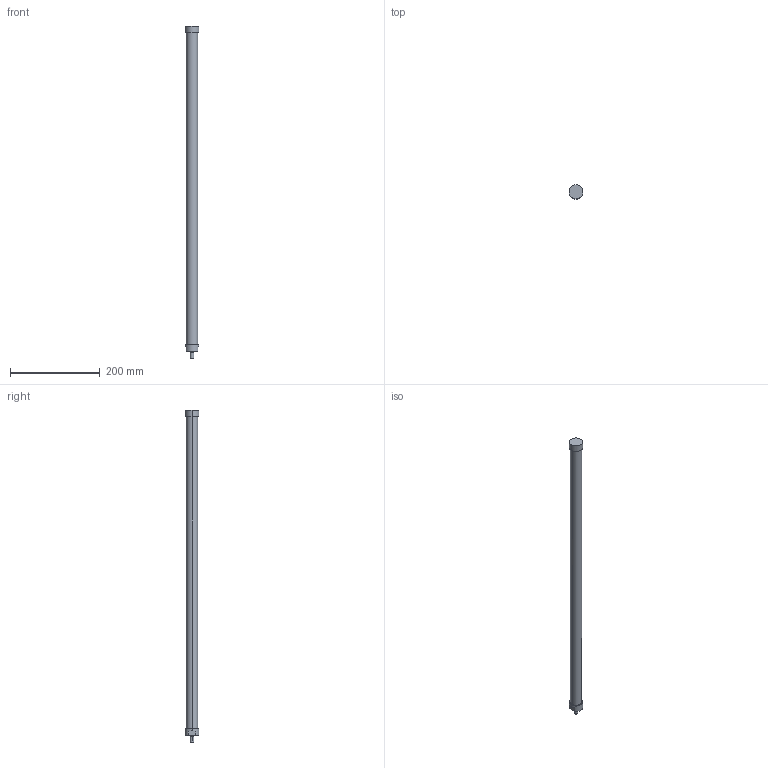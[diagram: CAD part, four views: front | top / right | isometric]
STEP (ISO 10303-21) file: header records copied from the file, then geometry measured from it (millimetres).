
FILE_DESCRIPTION(('STEP AP214'),'1');
FILE_NAME('ETT-R050M734.stp','2015-02-02T15:20:27',(' '),(' '),'Spatial InterOp 3D',' ',' ');
FILE_SCHEMA(('automotive_design'));
Length unit declared in the file: metre
Products named in the file (2): 1; 2
Bounding box: 31 x 31 x 739 mm (x, y, z)
Volume: 363491 mm3; surface area: 60099.8 mm2
Topology: 1 solids, 4 shells, 20 faces, 48 edges, 36 vertices
Faces by surface type: cylinder 10, plane 10
Entity records: 812 total; most frequent: DIRECTION 120, CARTESIAN_POINT 106, ORIENTED_EDGE 84, AXIS2_PLACEMENT_3D 50, EDGE_CURVE 48, VERTEX_POINT 36, CIRCLE 28, EDGE_LOOP 24
